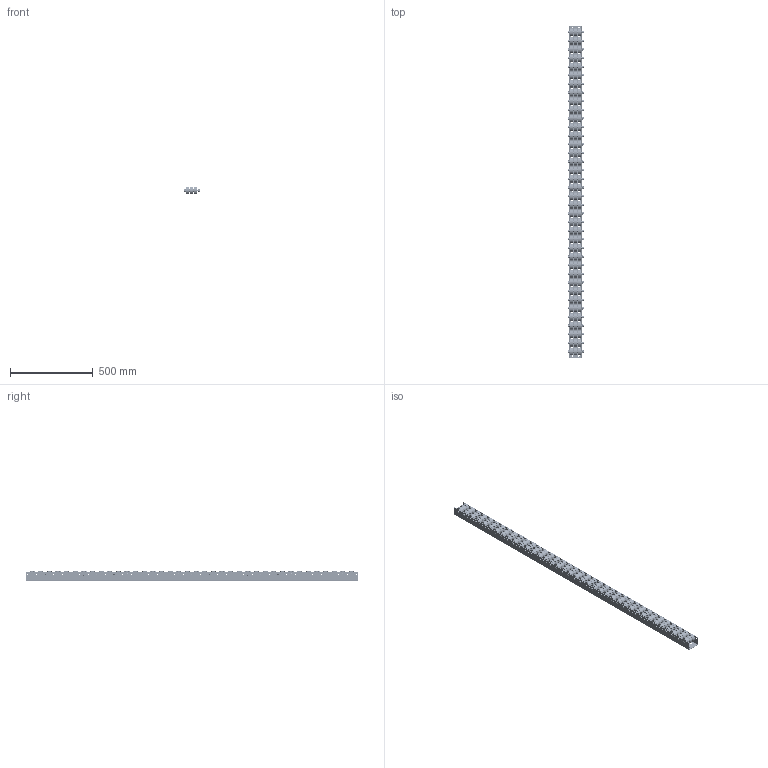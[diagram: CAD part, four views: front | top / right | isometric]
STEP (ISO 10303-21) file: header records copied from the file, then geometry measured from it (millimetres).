
FILE_DESCRIPTION( ( 'Unknown' ), '1' );
FILE_NAME( 'D:/Construktor/Listwy rolkowe 2015/Listwa T741/Listwa T741.stp', 'Unknown', ( 'Unknown' ), ( 'Unknown' ), 'PSStep 17.0.49', 'Unknown', ' ' );
FILE_SCHEMA( ( 'AUTOMOTIVE_DESIGN { 1 0 10303 214 1 1 1 1 }' ) );
Length unit declared in the file: millimetre
Products named in the file (13): Assem1; Ceownik T720; Bolt_DIN_931_M8; Bolt_DIN_931_M8-oa0; Bolt_DIN_931_M8-oa1; Nut_DIN_982_M8_v10.50; 621 rolka; 621 rolka-oa2; 621 rolka-oa3; 621 rolka-oa4; 621 rolka-oa5; 621 rolka-oa6; 621 rolka-oa7
Assembly tree (191 placements, depth 2):
  Assem1
    Ceownik T720
    Bolt_DIN_931_M8  x36
    Bolt_DIN_931_M8-oa0
    Bolt_DIN_931_M8-oa1
    Nut_DIN_982_M8_v10.50  x38
    621 rolka  x108
    621 rolka-oa2
    621 rolka-oa3
    621 rolka-oa4
    621 rolka-oa5
    621 rolka-oa6
    621 rolka-oa7
Bounding box: 95.3 x 2000 x 66 mm (x, y, z)
Volume: 3256234.6 mm3; surface area: 1914559 mm2
Topology: 191 solids, 191 shells, 5148 faces, 10538 edges, 6684 vertices
Faces by surface type: plane 1758, cylinder 1528, torus 1292, cone 570
Full cylindrical faces by diameter (mm): 6.466 x38, 6.647 x38, 6.697 x38, 8 x76, 8.2 x154, 8.3 x114, 9 x38, 10.2 x154, 11.63 x38, 12.5 x38, 12.6 x228, 29.5 x228, 43.6 x228, 48 x114
Entity records: 23626 total; most frequent: DIRECTION 3400, CARTESIAN_POINT 3101, ORIENTED_EDGE 2004, EDGE_LOOP 1750, AXIS2_PLACEMENT_3D 1665, FACE_OUTER_BOUND 1057, EDGE_CURVE 1002, VERTEX_POINT 942
